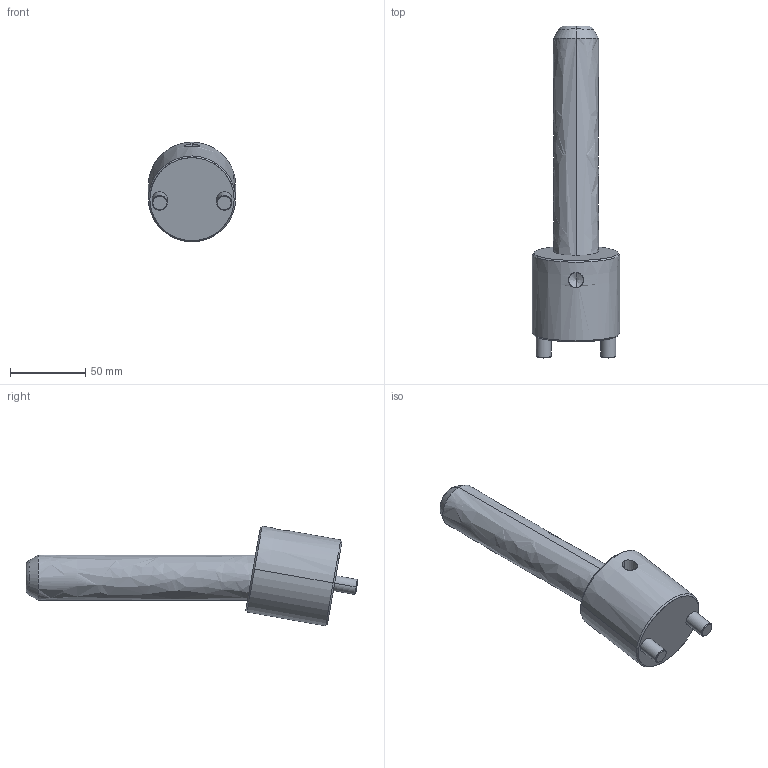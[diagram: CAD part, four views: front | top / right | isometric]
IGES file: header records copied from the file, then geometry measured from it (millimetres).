
Start section: START RECORD GO HERE.
Global section: file name: CI1030150.igs; native system: DASSAULT SYSTEMES CATIA V5 R20 - www.3ds.com; preprocessor: CATIA Version 5 Release 20 ; author: r.borello; organization: CFTORINO; date: 20190621.155925; units: millimetre
Bounding box: 58 x 220.76 x 66.32 mm (x, y, z)
Surface area: 40265.2 mm2 (no closed solid volume)
Topology: 0 solids, 0 shells, 39 faces, 162 edges, 160 vertices
Faces by surface type: revolution 32, plane 7
